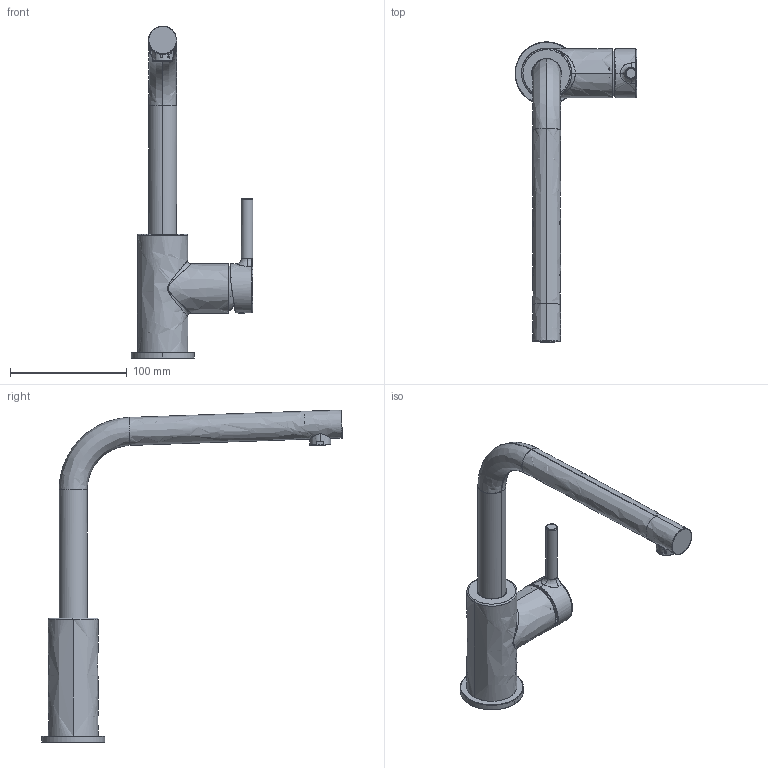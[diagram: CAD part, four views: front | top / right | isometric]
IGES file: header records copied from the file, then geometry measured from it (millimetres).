
Global section: file name: F:\_CONVERSIONE_CAD_2024_2025\PACCHETTI_2026\NUOVI_PACCHETTI_LUGLIO\PRIORITY_3\3D001_Taps_Lina_L-Swivel-Spout\3D001_Taps_Lina_L-Swivel-Spout.igs; native system: Rhinoceros ( May  6 2026 ); preprocessor: Trout Lake IGES 012 May  6 2026; date: 260806.081543; units: millimetre
Bounding box: 104.35 x 257.41 x 284.18 mm (x, y, z)
Surface area: 97402.2 mm2 (no closed solid volume)
Topology: 0 solids, 0 shells, 2143 faces, 11386 edges, 11379 vertices
Faces by surface type: bspline 2143
